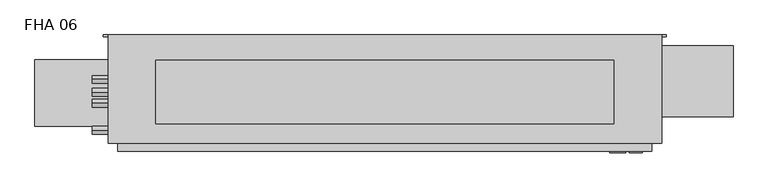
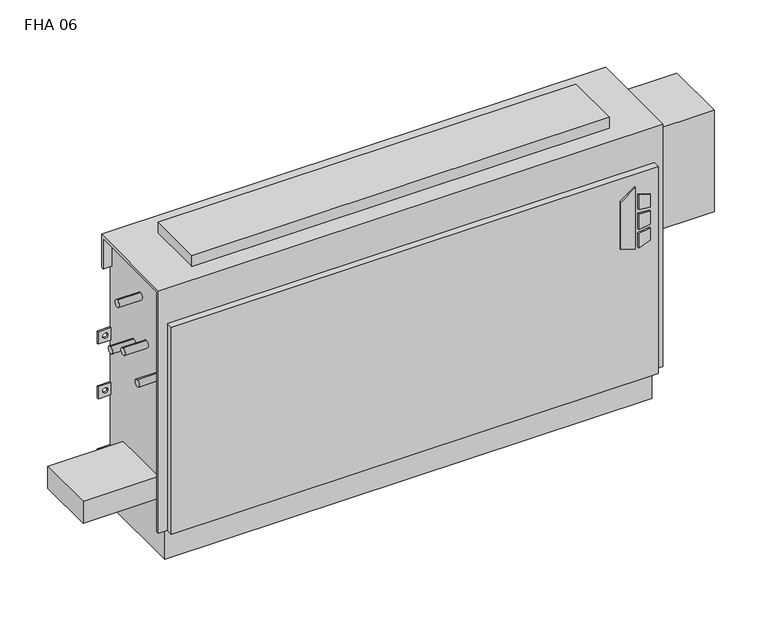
"""IFC4 building model written with IfcOpenShell, lengths in millimetres: proxy geometry, Vertical_Fan_Coil_Unit_-_FHA_-_IEC_-_4-Pipe_TS-FR_LH_2022 : FHA 06."""

from ifc_helpers import new_model, si_unit, point, frame, frame_2d, origin, place, context, project, spatial, polyline, circle_curve, trimmed, segment, composite_curve, outline, extrude, source, transform, mapped, element, save
from ifc_brep_helpers import plane_surface, revolved_surface, advanced_brep


def fha_06_6cc8bb4f(model_context):
    return source(origin(), model_context, "Body", "SolidModel", [
        extrude(outline(polyline([(391.6086829, 601.7368862), (381.6606126, 633.9102728), (523.831537, 633.9102728), (500.8095309, 601.7368862), (391.6086829, 601.7368862)])), frame((0.0, 9.525, 0.0), z_axis=(0.0, 1.0, 0.0), x_axis=(0.0, 0.0, 1.0)), (0.0, 0.0, 1.0), 3.175),
        extrude(outline(polyline([(470.6079683, 640.6686058), (467.4055757, 666.75), (496.6344168, 666.75), (504.6988318, 640.6686058), (470.6079683, 640.6686058)])), frame((0.0, 9.525, 0.0), z_axis=(0.0, 1.0, 0.0), x_axis=(0.0, 0.0, 1.0)), (0.0, 0.0, 1.0), 3.175),
        extrude(outline(polyline([(418.7444414, 666.75), (415.0789404, 640.6686058), (381.6606126, 640.6686058), (390.2948498, 666.75), (418.7444414, 666.75)])), frame((0.0, 9.525, 0.0), z_axis=(0.0, 1.0, 0.0), x_axis=(0.0, 0.0, 1.0)), (0.0, 0.0, 1.0), 3.175),
        extrude(outline(polyline([(458.0596028, 666.75), (460.3414292, 640.6686058), (424.4038806, 640.6686058), (427.1451456, 666.75), (458.0596028, 666.75)])), frame((0.0, 9.525, 0.0), z_axis=(0.0, 1.0, 0.0), x_axis=(0.0, 0.0, 1.0)), (0.0, 0.0, 1.0), 3.175),
        extrude(outline(composite_curve([segment(trimmed(circle_curve(frame_2d((-444.5, 128.5875)), 9.525), [point((-454.025, 128.5875))], [point((-434.975, 128.5875))], False, "CARTESIAN"), True, "CONTINUOUS"), segment(trimmed(circle_curve(frame_2d((-444.5, 128.5875)), 9.525), [point((-434.975, 128.5875))], [point((-454.025, 128.5875))], False, "CARTESIAN"), True, "CONTINUOUS")], self_intersect=False)), frame((0.0, 0.0, 101.6), z_axis=(0.0, 0.0, 1.0), x_axis=(1.0, 0.0, 0.0)), (0.0, 0.0, 1.0), 25.4),
        extrude(outline(polyline([(-546.1, 61.9125), (-546.1, 195.2625), (-381.0, 195.2625), (-381.0, 61.9125), (-546.1, 61.9125)])), frame((0.0, 0.0, 127.0), z_axis=(0.0, 0.0, 1.0), x_axis=(1.0, 0.0, 0.0)), (0.0, 0.0, 1.0), 50.8),
        extrude(outline(polyline([(609.6, 193.675), (609.6, 66.675), (-304.8, 66.675), (-304.8, 193.675), (609.6, 193.675)])), frame((0.0, 0.0, 635.0), z_axis=(0.0, 0.0, 1.0), x_axis=(1.0, 0.0, 0.0)), (0.0, 0.0, 1.0), 25.4),
        extrude(outline(composite_curve([segment(trimmed(circle_curve(frame_2d((107.95, 457.2)), 7.9375), [point((107.95, 465.1375))], [point((107.95, 449.2625))], False, "CARTESIAN"), True, "CONTINUOUS"), segment(trimmed(circle_curve(frame_2d((107.95, 457.2)), 7.9375), [point((107.95, 449.2625))], [point((107.95, 465.1375))], False, "CARTESIAN"), True, "CONTINUOUS")], self_intersect=False)), frame((-431.8, 0.0, 0.0), z_axis=(1.0, 0.0, 0.0), x_axis=(0.0, 1.0, 0.0)), (0.0, 0.0, 1.0), 50.8),
        extrude(outline(composite_curve([segment(trimmed(circle_curve(frame_2d((155.575, 431.8)), 7.9375), [point((155.575, 439.7375))], [point((155.575, 423.8625))], False, "CARTESIAN"), True, "CONTINUOUS"), segment(trimmed(circle_curve(frame_2d((155.575, 431.8)), 7.9375), [point((155.575, 423.8625))], [point((155.575, 439.7375))], False, "CARTESIAN"), True, "CONTINUOUS")], self_intersect=False)), frame((-431.8, 0.0, 0.0), z_axis=(1.0, 0.0, 0.0), x_axis=(0.0, 1.0, 0.0)), (0.0, 0.0, 1.0), 50.8),
        extrude(outline(composite_curve([segment(trimmed(circle_curve(frame_2d((130.175, 554.99)), 7.9502), [point((130.175, 562.9402))], [point((130.175, 547.0398))], False, "CARTESIAN"), True, "CONTINUOUS"), segment(trimmed(circle_curve(frame_2d((130.175, 554.99)), 7.9502), [point((130.175, 547.0398))], [point((130.175, 562.9402))], False, "CARTESIAN"), True, "CONTINUOUS")], self_intersect=False)), frame((-431.8, 0.0, 0.0), z_axis=(1.0, 0.0, 0.0), x_axis=(0.0, 1.0, 0.0)), (0.0, 0.0, 1.0), 50.8),
        extrude(outline(composite_curve([segment(trimmed(circle_curve(frame_2d((53.975, 416.56)), 7.9502), [point((53.975, 424.5102))], [point((53.975, 408.6098))], False, "CARTESIAN"), True, "CONTINUOUS"), segment(trimmed(circle_curve(frame_2d((53.975, 416.56)), 7.9502), [point((53.975, 408.6098))], [point((53.975, 424.5102))], False, "CARTESIAN"), True, "CONTINUOUS")], self_intersect=False)), frame((-431.8, 0.0, 0.0), z_axis=(1.0, 0.0, 0.0), x_axis=(0.0, 1.0, 0.0)), (0.0, 0.0, 1.0), 50.8),
        extrude(outline(polyline([(847.725, 223.266), (847.725, 81.534), (685.8, 81.534), (685.8, 223.266), (847.725, 223.266)])), frame((0.0, 0.0, 349.25), z_axis=(0.0, 0.0, 1.0), x_axis=(1.0, 0.0, 0.0)), (0.0, 0.0, 1.0), 234.95),
        advanced_brep(
        [(704.85, 244.475, 635.0), (-400.05, 244.475, 635.0), (-400.05, 28.575, 635.0), (704.85, 28.575, 635.0), (-381.0, 244.475, 0.0), (685.8, 244.475, 0.0), (685.8, 38.1, 0.0), (-381.0, 38.1, 0.0), (704.85, 244.475, 558.8), (685.8, 244.475, 558.8), (685.8, 244.475, 414.3375), (714.375, 244.475, 414.3375), (714.375, 244.475, 385.7625), (685.8, 244.475, 385.7625), (685.8, 244.475, 287.3375), (714.375, 244.475, 287.3375), (714.375, 244.475, 258.7625), (685.8, 244.475, 258.7625), (685.8, 244.475, 141.2875), (714.375, 244.475, 141.2875), (714.375, 244.475, 112.7125), (685.8, 244.475, 112.7125), (-381.0, 244.475, 112.7125), (-409.575, 244.475, 112.7125), (-409.575, 244.475, 141.2875), (-381.0, 244.475, 141.2875), (-381.0, 244.475, 258.7625), (-409.575, 244.475, 258.7625), (-409.575, 244.475, 287.3375), (-381.0, 244.475, 287.3375), (-381.0, 244.475, 385.7625), (-409.575, 244.475, 385.7625), (-409.575, 244.475, 414.3375), (-381.0, 244.475, 414.3375), (-381.0, 244.475, 558.8), (-400.05, 244.475, 558.8), (704.0626, 244.475, 127.0), (692.9374, 244.475, 127.0), (-388.1374, 244.475, 127.0), (-399.2626, 244.475, 127.0), (704.0626, 244.475, 273.05), (692.9374, 244.475, 273.05), (-388.1374, 244.475, 273.05), (-399.2626, 244.475, 273.05), (704.0626, 244.475, 400.05), (692.9374, 244.475, 400.05), (-388.1374, 244.475, 400.05), (-399.2626, 244.475, 400.05), (-400.05, 238.125, 558.8), (-400.05, 238.125, 628.65), (-400.05, 34.925, 628.65), (-400.05, 34.925, 73.025), (-400.05, 28.575, 73.025), (685.8, 12.7, 552.45), (-381.0, 12.7, 552.45), (-381.0, 12.7, 73.025), (685.8, 12.7, 73.025), (704.85, 28.575, 73.025), (704.85, 34.925, 73.025), (704.85, 34.925, 628.65), (704.85, 238.125, 628.65), (704.85, 238.125, 558.8), (-381.0, 28.575, 73.025), (-381.0, 28.575, 552.45), (685.8, 28.575, 552.45), (685.8, 28.575, 73.025), (-381.0, 34.925, 73.025), (-381.0, 38.1, 73.025), (685.8, 38.1, 73.025), (685.8, 34.925, 73.025), (685.8, 241.3, 112.7125), (685.8, 241.3, 141.2875), (685.8, 241.3, 258.7625), (685.8, 241.3, 287.3375), (685.8, 241.3, 385.7625), (685.8, 241.3, 414.3375), (685.8, 238.125, 558.8), (685.8, 238.125, 628.65), (685.8, 34.925, 628.65), (-381.0, 34.925, 628.65), (-381.0, 238.125, 628.65), (-381.0, 238.125, 558.8), (-381.0, 241.3, 414.3375), (-381.0, 241.3, 385.7625), (-381.0, 241.3, 287.3375), (-381.0, 241.3, 258.7625), (-381.0, 241.3, 141.2875), (-381.0, 241.3, 112.7125), (714.375, 241.3, 112.7125), (714.375, 241.3, 141.2875), (692.9374, 241.3, 127.0), (704.0626, 241.3, 127.0), (714.375, 241.3, 258.7625), (714.375, 241.3, 287.3375), (692.9374, 241.3, 273.05), (704.0626, 241.3, 273.05), (714.375, 241.3, 385.7625), (714.375, 241.3, 414.3375), (692.9374, 241.3, 400.05), (704.0626, 241.3, 400.05), (-409.575, 241.3, 141.2875), (-409.575, 241.3, 112.7125), (-399.2626, 241.3, 127.0), (-388.1374, 241.3, 127.0), (-409.575, 241.3, 287.3375), (-409.575, 241.3, 258.7625), (-399.2626, 241.3, 273.05), (-388.1374, 241.3, 273.05), (-409.575, 241.3, 414.3375), (-409.575, 241.3, 385.7625), (-399.2626, 241.3, 400.05), (-388.1374, 241.3, 400.05)],
        [
            (0, 1),
            (1, 2),
            (2, 3),
            (3, 0),
            (4, 5),
            (5, 6),
            (6, 7),
            (7, 4),
            (0, 8),
            (8, 9),
            (9, 10),
            (10, 11),
            (11, 12),
            (12, 13),
            (13, 14),
            (14, 15),
            (15, 16),
            (16, 17),
            (17, 18),
            (18, 19),
            (19, 20),
            (20, 21),
            (21, 5),
            (4, 22),
            (22, 23),
            (23, 24),
            (24, 25),
            (25, 26),
            (26, 27),
            (27, 28),
            (28, 29),
            (29, 30),
            (30, 31),
            (31, 32),
            (32, 33),
            (33, 34),
            (34, 35),
            (35, 1),
            (36, 37, circle_curve(frame((698.5, 244.475, 127.0), z_axis=(0.0, -1.0, 0.0), x_axis=(-1.0, 0.0, 0.0)), 5.5626)),
            (37, 36, circle_curve(frame((698.5, 244.475, 127.0), z_axis=(0.0, -1.0, 0.0), x_axis=(-1.0, 0.0, 0.0)), 5.5626)),
            (38, 39, circle_curve(frame((-393.7, 244.475, 127.0), z_axis=(0.0, -1.0, 0.0), x_axis=(-1.0, 0.0, 0.0)), 5.5626)),
            (39, 38, circle_curve(frame((-393.7, 244.475, 127.0), z_axis=(0.0, -1.0, 0.0), x_axis=(-1.0, 0.0, 0.0)), 5.5626)),
            (40, 41, circle_curve(frame((698.5, 244.475, 273.05), z_axis=(0.0, -1.0, 0.0), x_axis=(-1.0, 0.0, 0.0)), 5.5626)),
            (41, 40, circle_curve(frame((698.5, 244.475, 273.05), z_axis=(0.0, -1.0, 0.0), x_axis=(-1.0, 0.0, 0.0)), 5.5626)),
            (42, 43, circle_curve(frame((-393.7, 244.475, 273.05), z_axis=(0.0, -1.0, 0.0), x_axis=(-1.0, 0.0, 0.0)), 5.5626)),
            (43, 42, circle_curve(frame((-393.7, 244.475, 273.05), z_axis=(0.0, -1.0, 0.0), x_axis=(-1.0, 0.0, 0.0)), 5.5626)),
            (44, 45, circle_curve(frame((698.5, 244.475, 400.05), z_axis=(0.0, -1.0, 0.0), x_axis=(-1.0, 0.0, 0.0)), 5.5626)),
            (45, 44, circle_curve(frame((698.5, 244.475, 400.05), z_axis=(0.0, -1.0, 0.0), x_axis=(-1.0, 0.0, 0.0)), 5.5626)),
            (46, 47, circle_curve(frame((-393.7, 244.475, 400.05), z_axis=(0.0, -1.0, 0.0), x_axis=(-1.0, 0.0, 0.0)), 5.5626)),
            (47, 46, circle_curve(frame((-393.7, 244.475, 400.05), z_axis=(0.0, -1.0, 0.0), x_axis=(-1.0, 0.0, 0.0)), 5.5626)),
            (35, 48),
            (48, 49),
            (49, 50),
            (50, 51),
            (51, 52),
            (52, 2),
            (53, 54),
            (54, 55),
            (55, 56),
            (56, 53),
            (3, 57),
            (57, 58),
            (58, 59),
            (59, 60),
            (60, 61),
            (61, 8),
            (52, 62),
            (62, 63),
            (63, 64),
            (64, 65),
            (65, 57),
            (53, 64),
            (63, 54),
            (55, 62),
            (51, 66),
            (66, 67),
            (67, 68),
            (68, 69),
            (69, 58),
            (65, 56),
            (6, 68),
            (67, 7),
            (21, 70),
            (70, 71),
            (71, 18),
            (17, 72),
            (72, 73),
            (73, 14),
            (13, 74),
            (74, 75),
            (75, 10),
            (9, 76),
            (76, 77),
            (77, 78),
            (78, 69),
            (66, 79),
            (79, 80),
            (80, 81),
            (81, 34),
            (33, 82),
            (82, 83),
            (83, 30),
            (29, 84),
            (84, 85),
            (85, 26),
            (25, 86),
            (86, 87),
            (87, 22),
            (76, 61),
            (60, 77),
            (78, 59),
            (50, 79),
            (81, 48),
            (80, 49),
            (70, 88),
            (88, 89),
            (89, 71),
            (90, 91, circle_curve(frame((698.5, 241.3, 127.0), z_axis=(0.0, 1.0, 0.0), x_axis=(-1.0, 0.0, 0.0)), 5.5626)),
            (91, 90, circle_curve(frame((698.5, 241.3, 127.0), z_axis=(0.0, 1.0, 0.0), x_axis=(-1.0, 0.0, 0.0)), 5.5626)),
            (92, 93),
            (93, 73),
            (72, 92),
            (94, 95, circle_curve(frame((698.5, 241.3, 273.05), z_axis=(0.0, 1.0, 0.0), x_axis=(-1.0, 0.0, 0.0)), 5.5626)),
            (95, 94, circle_curve(frame((698.5, 241.3, 273.05), z_axis=(0.0, 1.0, 0.0), x_axis=(-1.0, 0.0, 0.0)), 5.5626)),
            (96, 97),
            (97, 75),
            (74, 96),
            (98, 99, circle_curve(frame((698.5, 241.3, 400.05), z_axis=(0.0, 1.0, 0.0), x_axis=(-1.0, 0.0, 0.0)), 5.5626)),
            (99, 98, circle_curve(frame((698.5, 241.3, 400.05), z_axis=(0.0, 1.0, 0.0), x_axis=(-1.0, 0.0, 0.0)), 5.5626)),
            (100, 101),
            (101, 87),
            (86, 100),
            (102, 103, circle_curve(frame((-393.7, 241.3, 127.0), z_axis=(0.0, 1.0, 0.0), x_axis=(-1.0, 0.0, 0.0)), 5.5626)),
            (103, 102, circle_curve(frame((-393.7, 241.3, 127.0), z_axis=(0.0, 1.0, 0.0), x_axis=(-1.0, 0.0, 0.0)), 5.5626)),
            (84, 104),
            (104, 105),
            (105, 85),
            (106, 107, circle_curve(frame((-393.7, 241.3, 273.05), z_axis=(0.0, 1.0, 0.0), x_axis=(-1.0, 0.0, 0.0)), 5.5626)),
            (107, 106, circle_curve(frame((-393.7, 241.3, 273.05), z_axis=(0.0, 1.0, 0.0), x_axis=(-1.0, 0.0, 0.0)), 5.5626)),
            (108, 109),
            (109, 83),
            (82, 108),
            (110, 111, circle_curve(frame((-393.7, 241.3, 400.05), z_axis=(0.0, 1.0, 0.0), x_axis=(-1.0, 0.0, 0.0)), 5.5626)),
            (111, 110, circle_curve(frame((-393.7, 241.3, 400.05), z_axis=(0.0, 1.0, 0.0), x_axis=(-1.0, 0.0, 0.0)), 5.5626)),
            (89, 19),
            (88, 20),
            (16, 92),
            (93, 15),
            (12, 96),
            (97, 11),
            (24, 100),
            (101, 23),
            (105, 27),
            (104, 28),
            (32, 108),
            (109, 31),
            (90, 37),
            (36, 91),
            (102, 39),
            (38, 103),
            (94, 41),
            (40, 95),
            (106, 43),
            (42, 107),
            (98, 45),
            (44, 99),
            (110, 47),
            (46, 111),
        ],
        [
            plane_surface(frame((-400.05, 244.475, 635.0), z_axis=(0.0, 0.0, 1.0), x_axis=(-1.0, 0.0, 0.0))),
            plane_surface(frame((-400.05, 244.475, 0.0), z_axis=(0.0, 0.0, -1.0), x_axis=(1.0, 0.0, 0.0))),
            plane_surface(frame((704.85, 244.475, 635.0), z_axis=(0.0, 1.0, 0.0), x_axis=(0.0, 0.0, -1.0))),
            plane_surface(frame((-400.05, 244.475, 635.0), z_axis=(-1.0, 0.0, 0.0), x_axis=(0.0, 0.0, -1.0))),
            plane_surface(frame((-400.05, 12.7, 635.0), z_axis=(0.0, -1.0, 0.0), x_axis=(0.0, 0.0, -1.0))),
            plane_surface(frame((704.85, 12.7, 635.0), z_axis=(1.0, 0.0, 0.0), x_axis=(0.0, 0.0, -1.0))),
            plane_surface(frame((-654.05, 28.575, 635.0), z_axis=(0.0, -1.0, 0.0), x_axis=(1.0, 0.0, 0.0))),
            plane_surface(frame((-654.05, 28.575, 552.45), z_axis=(0.0, 0.0, 1.0), x_axis=(1.0, 0.0, 0.0))),
            plane_surface(frame((-400.05, 12.7, 73.025), z_axis=(0.0, 0.0, -1.0), x_axis=(1.0, 0.0, 0.0))),
            plane_surface(frame((-400.05, 38.1, 73.025), z_axis=(0.0, -1.0, 0.0), x_axis=(1.0, 0.0, 0.0))),
            plane_surface(frame((685.8, 28.575, 73.025), z_axis=(1.0, 0.0, 0.0), x_axis=(0.0, -1.0, 0.0))),
            plane_surface(frame((-381.0, 28.575, 552.45), z_axis=(-1.0, 0.0, 0.0), x_axis=(0.0, -1.0, 0.0))),
            plane_surface(frame((685.8, 244.475, 0.0), z_axis=(1.0, 0.0, 0.0), x_axis=(0.0, -1.0, 0.0))),
            plane_surface(frame((-381.0, 244.475, 73.025), z_axis=(-1.0, 0.0, 0.0), x_axis=(0.0, -1.0, 0.0))),
            plane_surface(frame((685.8, 238.125, 628.65), z_axis=(0.0, -1.0, 0.0), x_axis=(1.0, 0.0, 0.0))),
            plane_surface(frame((685.8, 238.125, 558.8), z_axis=(0.0, 0.0, -1.0), x_axis=(1.0, 0.0, 0.0))),
            plane_surface(frame((685.8, 34.925, 73.025), z_axis=(0.0, 1.0, 0.0), x_axis=(1.0, 0.0, 0.0))),
            plane_surface(frame((685.8, 34.925, 628.65), z_axis=(0.0, 0.0, -1.0), x_axis=(1.0, 0.0, 0.0))),
            plane_surface(frame((-381.0, 34.925, 628.65), z_axis=(0.0, 1.0, 0.0), x_axis=(-1.0, 0.0, 0.0))),
            plane_surface(frame((-381.0, 244.475, 558.8), z_axis=(0.0, 0.0, -1.0), x_axis=(-1.0, 0.0, 0.0))),
            plane_surface(frame((-381.0, 238.125, 558.8), z_axis=(0.0, -1.0, 0.0), x_axis=(-1.0, 0.0, 0.0))),
            plane_surface(frame((-381.0, 238.125, 628.65), z_axis=(0.0, 0.0, -1.0), x_axis=(-1.0, 0.0, 0.0))),
            plane_surface(frame((714.375, 241.3, 141.2875), z_axis=(0.0, -1.0, 0.0), x_axis=(-1.0, 0.0, 0.0))),
            plane_surface(frame((685.8, 244.475, 141.2875), z_axis=(0.0, 0.0, 1.0), x_axis=(0.0, -1.0, 0.0))),
            plane_surface(frame((714.375, 244.475, 141.2875), z_axis=(1.0, 0.0, 0.0), x_axis=(0.0, -1.0, 0.0))),
            plane_surface(frame((714.375, 244.475, 112.7125), z_axis=(0.0, 0.0, -1.0), x_axis=(0.0, -1.0, 0.0))),
            plane_surface(frame((714.375, 244.475, 258.7625), z_axis=(0.0, 0.0, -1.0), x_axis=(0.0, -1.0, 0.0))),
            plane_surface(frame((685.8, 244.475, 287.3375), z_axis=(0.0, 0.0, 1.0), x_axis=(0.0, -1.0, 0.0))),
            plane_surface(frame((714.375, 244.475, 287.3375), z_axis=(1.0, 0.0, 0.0), x_axis=(0.0, -1.0, 0.0))),
            plane_surface(frame((714.375, 244.475, 385.7625), z_axis=(0.0, 0.0, -1.0), x_axis=(0.0, -1.0, 0.0))),
            plane_surface(frame((685.8, 244.475, 414.3375), z_axis=(0.0, 0.0, 1.0), x_axis=(0.0, -1.0, 0.0))),
            plane_surface(frame((714.375, 244.475, 414.3375), z_axis=(1.0, 0.0, 0.0), x_axis=(0.0, -1.0, 0.0))),
            plane_surface(frame((-409.575, 244.475, 141.2875), z_axis=(0.0, 0.0, 1.0), x_axis=(0.0, -1.0, 0.0))),
            plane_surface(frame((-381.0, 244.475, 112.7125), z_axis=(0.0, 0.0, -1.0), x_axis=(0.0, -1.0, 0.0))),
            plane_surface(frame((-409.575, 244.475, 112.7125), z_axis=(-1.0, 0.0, 0.0), x_axis=(0.0, -1.0, 0.0))),
            plane_surface(frame((-381.0, 244.475, 258.7625), z_axis=(0.0, 0.0, -1.0), x_axis=(0.0, -1.0, 0.0))),
            plane_surface(frame((-409.575, 244.475, 258.7625), z_axis=(-1.0, 0.0, 0.0), x_axis=(0.0, -1.0, 0.0))),
            plane_surface(frame((-409.575, 244.475, 287.3375), z_axis=(0.0, 0.0, 1.0), x_axis=(0.0, -1.0, 0.0))),
            plane_surface(frame((-409.575, 244.475, 414.3375), z_axis=(0.0, 0.0, 1.0), x_axis=(0.0, -1.0, 0.0))),
            plane_surface(frame((-381.0, 244.475, 385.7625), z_axis=(0.0, 0.0, -1.0), x_axis=(0.0, -1.0, 0.0))),
            plane_surface(frame((-409.575, 244.475, 385.7625), z_axis=(-1.0, 0.0, 0.0), x_axis=(0.0, -1.0, 0.0))),
            revolved_surface(polyline([(692.9374, 241.3, 127.0), (692.9374, 244.475, 127.0)]), (698.5, 244.475, 127.0), (0.0, -1.0, 0.0)),
            revolved_surface(polyline([(-399.26259999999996, 241.3, 127.0), (-399.26259999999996, 244.475, 127.0)]), (-393.7, 244.475, 127.0), (0.0, -1.0, 0.0)),
            revolved_surface(polyline([(692.9374, 241.3, 273.05), (692.9374, 244.475, 273.05)]), (698.5, 244.475, 273.05), (0.0, -1.0, 0.0)),
            revolved_surface(polyline([(-399.26259999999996, 241.3, 273.05), (-399.26259999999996, 244.475, 273.05)]), (-393.7, 244.475, 273.05), (0.0, -1.0, 0.0)),
            revolved_surface(polyline([(692.9374, 241.3, 400.05), (692.9374, 244.475, 400.05)]), (698.5, 244.475, 400.05), (0.0, -1.0, 0.0)),
            revolved_surface(polyline([(-399.26259999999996, 241.3, 400.05), (-399.26259999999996, 244.475, 400.05)]), (-393.7, 244.475, 400.05), (0.0, -1.0, 0.0)),
        ],
        [
            (0, [[1, 2, 3, 4]]),
            (1, [[5, 6, 7, 8]]),
            (2, [[-1, 9, 10, 11, 12, 13, 14, 15, 16, 17, 18, 19, 20, 21, 22, 23, -5, 24, 25, 26, 27, 28, 29, 30, 31, 32, 33, 34, 35, 36, 37, 38], [39, 40], [41, 42], [43, 44], [45, 46], [47, 48], [49, 50]]),
            (3, [[-2, -38, 51, 52, 53, 54, 55, 56]]),
            (4, [[57, 58, 59, 60]]),
            (5, [[-4, 61, 62, 63, 64, 65, 66, -9]]),
            (6, [[-3, -56, 67, 68, 69, 70, 71, -61]]),
            (7, [[-57, 72, -69, 73]]),
            (8, [[-59, 74, -67, -55, 75, 76, 77, 78, 79, -62, -71, 80]]),
            (9, [[-7, 81, -77, 82]]),
            (10, [[-70, -72, -60, -80]]),
            (11, [[-68, -74, -58, -73]]),
            (12, [[-6, -23, 83, 84, 85, -19, 86, 87, 88, -15, 89, 90, 91, -11, 92, 93, 94, 95, -78, -81]]),
            (13, [[-8, -82, -76, 96, 97, 98, 99, -36, 100, 101, 102, -32, 103, 104, 105, -28, 106, 107, 108, -24]]),
            (14, [[-93, 109, -65, 110]]),
            (15, [[-92, -10, -66, -109]]),
            (16, [[-95, 111, -63, -79]]),
            (17, [[-94, -110, -64, -111]]),
            (18, [[-96, -75, -54, 112]]),
            (19, [[-99, 113, -51, -37]]),
            (20, [[-98, 114, -52, -113]]),
            (21, [[-97, -112, -53, -114]]),
            (22, [[115, 116, 117, -84], [118, 119]]),
            (22, [[120, 121, -87, 122], [123, 124]]),
            (22, [[125, 126, -90, 127], [128, 129]]),
            (22, [[130, 131, -107, 132], [133, 134]]),
            (22, [[135, 136, 137, -104], [138, 139]]),
            (22, [[140, 141, -101, 142], [143, 144]]),
            (23, [[-117, 145, -20, -85]]),
            (24, [[-116, 146, -21, -145]]),
            (25, [[-115, -83, -22, -146]]),
            (26, [[-122, -86, -18, 147]]),
            (27, [[-121, 148, -16, -88]]),
            (28, [[-120, -147, -17, -148]]),
            (29, [[-127, -89, -14, 149]]),
            (30, [[-126, 150, -12, -91]]),
            (31, [[-125, -149, -13, -150]]),
            (32, [[-132, -106, -27, 151]]),
            (33, [[-131, 152, -25, -108]]),
            (34, [[-130, -151, -26, -152]]),
            (35, [[-137, 153, -29, -105]]),
            (36, [[-136, 154, -30, -153]]),
            (37, [[-135, -103, -31, -154]]),
            (38, [[-142, -100, -35, 155]]),
            (39, [[-141, 156, -33, -102]]),
            (40, [[-140, -155, -34, -156]]),
            (41, [[157, -39, 158, -118]]),
            (41, [[-157, -119, -158, -40]]),
            (42, [[159, -41, 160, -133]]),
            (42, [[-159, -134, -160, -42]]),
            (43, [[161, -43, 162, -123]]),
            (43, [[-161, -124, -162, -44]]),
            (44, [[163, -45, 164, -138]]),
            (44, [[-163, -139, -164, -46]]),
            (45, [[165, -47, 166, -128]]),
            (45, [[-165, -129, -166, -48]]),
            (46, [[167, -49, 168, -143]]),
            (46, [[-167, -144, -168, -50]]),
        ],
    ),
    ])


if __name__ == "__main__":
    model = new_model("IFC4")
    model_context = context("Model", 3, world=origin())
    ifc_project = project(units=[si_unit("LENGTHUNIT", "METRE", prefix="MILLI")], contexts=[model_context])
    site = spatial("IfcSite", under=ifc_project)
    building = spatial("IfcBuilding", under=site)
    placement = place(None, origin())
    fha_06_shape = fha_06_6cc8bb4f(model_context)
    element("IfcBuildingElementProxy", 1, Name="Vertical_Fan_Coil_Unit_-_FHA_-_IEC_-_4-Pipe_TS-FR_LH_2022 : FHA 06", ObjectType="Vertical_Fan_Coil_Unit_-_FHA_-_IEC_-_4-Pipe_TS-FR_LH_2022 : FHA 06", at=placement, inside=building, context=model_context, shape_type="MappedRepresentation", body=[
        mapped(fha_06_shape, transform((0.0, 0.0, 0.0), x_axis=(1.0, 0.0, 0.0), y_axis=(0.0, 1.0, 0.0), z_axis=(0.0, 0.0, 1.0))),
    ])
    save(model, "model.ifc")
